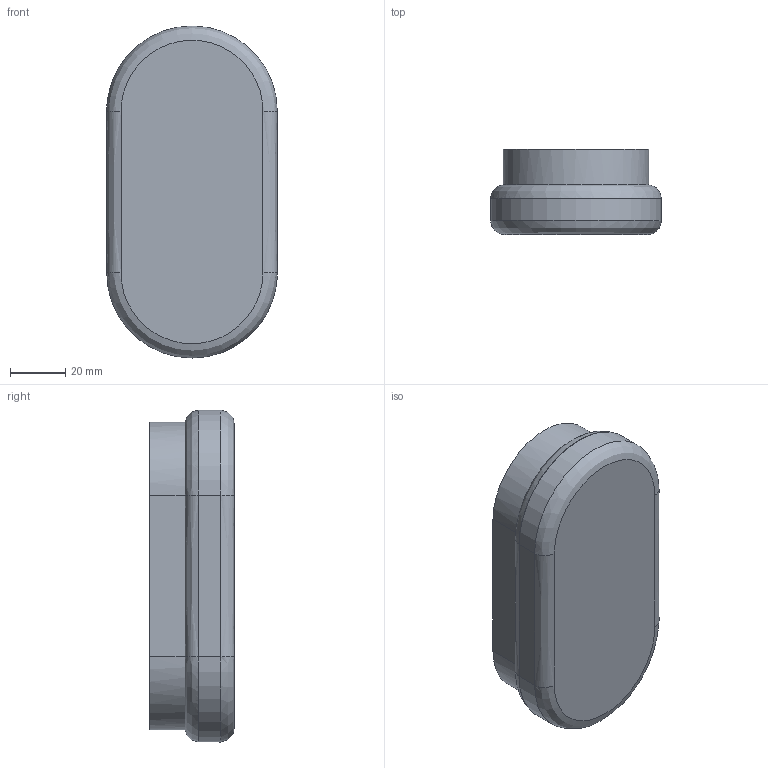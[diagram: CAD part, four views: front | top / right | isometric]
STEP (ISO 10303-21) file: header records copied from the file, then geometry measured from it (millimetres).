
FILE_DESCRIPTION((''),'2;1');
FILE_NAME('GTC01-A-MCF01_PRT','2008-06-30T',('GRA'),(''),'PRO/ENGINEER BY PARAMETRIC TECHNOLOGY CORPORATION, 2006170','PRO/ENGINEER BY PARAMETRIC TECHNOLOGY CORPORATION, 2006170','');
FILE_SCHEMA(('CONFIG_CONTROL_DESIGN'));
Length unit declared in the file: millimetre
Products named in the file (1): GTC01-A-MCF01_PRT
Bounding box: 62 x 30.9 x 120.7 mm (x, y, z)
Volume: 6271.4 mm3; surface area: 57184.9 mm2
Topology: 1 solids, 11 shells, 769 faces, 2239 edges, 1489 vertices
Faces by surface type: plane 528, cylinder 116, bspline 72, extrusion 36, cone 17
Entity records: 36908 total; most frequent: CARTESIAN_POINT 17777, ORIENTED_EDGE 4395, DIRECTION 3175, EDGE_CURVE 2239, VECTOR 1535, LINE 1499, VERTEX_POINT 1489, AXIS2_PLACEMENT_3D 820
